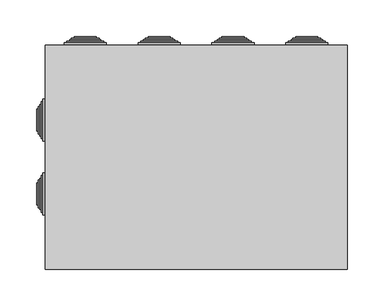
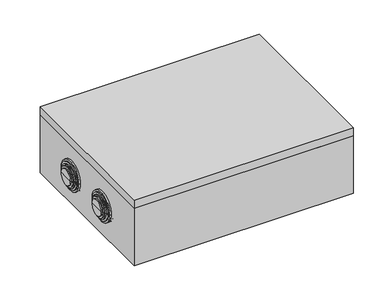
"""IFC4 building model written with IfcOpenShell, lengths in millimetres: cable carrier fitting geometry, КНС_КоробкаОтветвительнаяСКабельнымиВводами_12_IP55_DKC : с 12 кабельными вводами д.40мм, IP55, 380х300х120мм."""

from ifc_helpers import new_model, si_unit, frame, origin, place, context, project, spatial, polyline, circle_curve, faceted_brep, source, transform, mapped, element, save
from ifc_brep_helpers import plane_surface, cylinder_surface, revolved_surface, advanced_brep


def cable_carrier_fitting_1b3624fc(model_context):
    return source(origin(), model_context, "Body", "SolidModel", [
        advanced_brep(
        [(-202.5, -75.0, 57.0), (-202.5, -25.0, 57.0), (-202.5, -21.5, 57.0), (-202.5, -78.5, 57.0), (-204.5, -75.0, 57.0), (-204.5, -25.0, 57.0), (-204.5, -78.5, 57.0), (-204.5, -21.5, 57.0), (-207.5, -78.5, 57.0), (-207.5, -21.5, 57.0), (-207.5, -75.0, 57.0), (-207.5, -25.0, 57.0), (-209.5, -75.0, 57.0), (-209.5, -25.0, 57.0), (-209.5, -71.25, 57.0), (-209.5, -28.75, 57.0), (-211.5, -71.25, 57.0), (-211.5, -28.75, 57.0), (-211.5, -68.75, 57.0), (-211.5, -31.25, 57.0), (-213.5, -68.75, 57.0), (-213.5, -31.25, 57.0), (-213.5, -65.0, 57.0), (-213.5, -35.0, 57.0), (-215.5, -65.0, 57.0), (-215.5, -35.0, 57.0), (-215.5, -50.0, 57.0), (-195.5, -75.0, 57.0), (-195.5, -25.0, 57.0), (-195.5, -50.0, 57.0), (-200.2491137, -78.5, 57.0), (-200.2491137, -21.5, 57.0)],
        [
            (0, 1, circle_curve(frame((-202.5, -50.0, 57.0), z_axis=(1.0, 0.0, 0.0), x_axis=(0.0, 1.0, 0.0)), 25.0)),
            (1, 2),
            (2, 3, circle_curve(frame((-202.5, -50.0, 57.0), z_axis=(-1.0, 0.0, 0.0), x_axis=(0.0, 1.0, 0.0)), 28.5)),
            (3, 0),
            (1, 0, circle_curve(frame((-202.5, -50.0, 57.0), z_axis=(1.0, 0.0, 0.0), x_axis=(0.0, 1.0, 0.0)), 25.0)),
            (3, 2, circle_curve(frame((-202.5, -50.0, 57.0), z_axis=(-1.0, 0.0, 0.0), x_axis=(0.0, 1.0, 0.0)), 28.5)),
            (4, 5, circle_curve(frame((-204.5, -50.0, 57.0), z_axis=(1.0, 0.0, 0.0), x_axis=(0.0, 1.0, 0.0)), 25.0)),
            (5, 1),
            (0, 4),
            (5, 4, circle_curve(frame((-204.5, -50.0, 57.0), z_axis=(1.0, 0.0, 0.0), x_axis=(0.0, 1.0, 0.0)), 25.0)),
            (6, 7, circle_curve(frame((-204.5, -50.0, 57.0), z_axis=(1.0, 0.0, 0.0), x_axis=(0.0, 1.0, 0.0)), 28.5)),
            (7, 5),
            (4, 6),
            (7, 6, circle_curve(frame((-204.5, -50.0, 57.0), z_axis=(1.0, 0.0, 0.0), x_axis=(0.0, 1.0, 0.0)), 28.5)),
            (8, 9, circle_curve(frame((-207.5, -50.0, 57.0), z_axis=(1.0, 0.0, 0.0), x_axis=(0.0, 1.0, 0.0)), 28.5)),
            (9, 7),
            (6, 8),
            (9, 8, circle_curve(frame((-207.5, -50.0, 57.0), z_axis=(1.0, 0.0, 0.0), x_axis=(0.0, 1.0, 0.0)), 28.5)),
            (10, 11, circle_curve(frame((-207.5, -50.0, 57.0), z_axis=(1.0, 0.0, 0.0), x_axis=(0.0, 1.0, 0.0)), 25.0)),
            (11, 9),
            (8, 10),
            (11, 10, circle_curve(frame((-207.5, -50.0, 57.0), z_axis=(1.0, 0.0, 0.0), x_axis=(0.0, 1.0, 0.0)), 25.0)),
            (12, 13, circle_curve(frame((-209.5, -50.0, 57.0), z_axis=(1.0, 0.0, 0.0), x_axis=(0.0, 1.0, 0.0)), 25.0)),
            (13, 11),
            (10, 12),
            (13, 12, circle_curve(frame((-209.5, -50.0, 57.0), z_axis=(1.0, 0.0, 0.0), x_axis=(0.0, 1.0, 0.0)), 25.0)),
            (14, 15, circle_curve(frame((-209.5, -50.0, 57.0), z_axis=(1.0, 0.0, 0.0), x_axis=(0.0, 1.0, 0.0)), 21.25)),
            (15, 13),
            (12, 14),
            (15, 14, circle_curve(frame((-209.5, -50.0, 57.0), z_axis=(1.0, 0.0, 0.0), x_axis=(0.0, 1.0, 0.0)), 21.25)),
            (16, 17, circle_curve(frame((-211.5, -50.0, 57.0), z_axis=(1.0, 0.0, 0.0), x_axis=(0.0, 1.0, 0.0)), 21.25)),
            (17, 15),
            (14, 16),
            (17, 16, circle_curve(frame((-211.5, -50.0, 57.0), z_axis=(1.0, 0.0, 0.0), x_axis=(0.0, 1.0, 0.0)), 21.25)),
            (18, 19, circle_curve(frame((-211.5, -50.0, 57.0), z_axis=(1.0, 0.0, 0.0), x_axis=(0.0, 1.0, 0.0)), 18.75)),
            (19, 17),
            (16, 18),
            (19, 18, circle_curve(frame((-211.5, -50.0, 57.0), z_axis=(1.0, 0.0, 0.0), x_axis=(0.0, 1.0, 0.0)), 18.75)),
            (20, 21, circle_curve(frame((-213.5, -50.0, 57.0), z_axis=(1.0, 0.0, 0.0), x_axis=(0.0, 1.0, 0.0)), 18.75)),
            (21, 19),
            (18, 20),
            (21, 20, circle_curve(frame((-213.5, -50.0, 57.0), z_axis=(1.0, 0.0, 0.0), x_axis=(0.0, 1.0, 0.0)), 18.75)),
            (22, 23, circle_curve(frame((-213.5, -50.0, 57.0), z_axis=(1.0, 0.0, 0.0), x_axis=(0.0, 1.0, 0.0)), 15.0)),
            (23, 21),
            (20, 22),
            (23, 22, circle_curve(frame((-213.5, -50.0, 57.0), z_axis=(1.0, 0.0, 0.0), x_axis=(0.0, 1.0, 0.0)), 15.0)),
            (24, 25, circle_curve(frame((-215.5, -50.0, 57.0), z_axis=(1.0, 0.0, 0.0), x_axis=(0.0, 1.0, 0.0)), 15.0)),
            (25, 23),
            (22, 24),
            (25, 24, circle_curve(frame((-215.5, -50.0, 57.0), z_axis=(1.0, 0.0, 0.0), x_axis=(0.0, 1.0, 0.0)), 15.0)),
            (26, 25),
            (24, 26),
            (27, 28, circle_curve(frame((-195.5, -50.0, 57.0), z_axis=(1.0, 0.0, 0.0), x_axis=(0.0, 1.0, 0.0)), 25.0)),
            (28, 29),
            (29, 27),
            (28, 27, circle_curve(frame((-195.5, -50.0, 57.0), z_axis=(1.0, 0.0, 0.0), x_axis=(0.0, 1.0, 0.0)), 25.0)),
            (30, 31, circle_curve(frame((-200.2491137, -50.0, 57.0), z_axis=(1.0, 0.0, 0.0), x_axis=(0.0, 1.0, 0.0)), 28.5)),
            (31, 28),
            (27, 30),
            (31, 30, circle_curve(frame((-200.2491137, -50.0, 57.0), z_axis=(1.0, 0.0, 0.0), x_axis=(0.0, 1.0, 0.0)), 28.5)),
            (2, 31),
            (30, 3),
        ],
        [
            plane_surface(frame((-202.5, -50.0, 57.0), z_axis=(-1.0, 0.0, 0.0), x_axis=(0.0, 1.0, 0.0))),
            cylinder_surface(frame((1310.5, -50.0, 57.0), z_axis=(-1.0, 0.0, 0.0), x_axis=(0.0, 1.0, 0.0)), 25.0),
            plane_surface(frame((-204.5, -50.0, 57.0), z_axis=(1.0, 0.0, 0.0), x_axis=(0.0, 1.0, 0.0))),
            cylinder_surface(frame((1310.5, -50.0, 57.0), z_axis=(-1.0, 0.0, 0.0), x_axis=(0.0, 1.0, 0.0)), 28.5),
            plane_surface(frame((-207.5, -50.0, 57.0), z_axis=(-1.0, 0.0, 0.0), x_axis=(0.0, 1.0, 0.0))),
            plane_surface(frame((-209.5, -50.0, 57.0), z_axis=(-1.0, 0.0, 0.0), x_axis=(0.0, 1.0, 0.0))),
            cylinder_surface(frame((1310.5, -50.0, 57.0), z_axis=(-1.0, 0.0, 0.0), x_axis=(0.0, 1.0, 0.0)), 21.25),
            plane_surface(frame((-211.5, -50.0, 57.0), z_axis=(-1.0, 0.0, 0.0), x_axis=(0.0, 1.0, 0.0))),
            cylinder_surface(frame((1310.5, -50.0, 57.0), z_axis=(-1.0, 0.0, 0.0), x_axis=(0.0, 1.0, 0.0)), 18.75),
            plane_surface(frame((-213.5, -50.0, 57.0), z_axis=(-1.0, 0.0, 0.0), x_axis=(0.0, 1.0, 0.0))),
            cylinder_surface(frame((1310.5, -50.0, 57.0), z_axis=(-1.0, 0.0, 0.0), x_axis=(0.0, 1.0, 0.0)), 15.0),
            plane_surface(frame((-215.5, -50.0, 57.0), z_axis=(-1.0, 0.0, 0.0), x_axis=(0.0, 1.0, 0.0))),
            plane_surface(frame((-195.5, -50.0, 57.0), z_axis=(1.0, 0.0, 0.0), x_axis=(0.0, 1.0, 0.0))),
            revolved_surface(polyline([(-195.5, -25.0, 57.0), (-200.2491137, -21.5, 57.0)]), (1310.5, -50.0, 57.0), (-1.0, 0.0, 0.0)),
        ],
        [
            (0, [[1, 2, 3, 4]]),
            (0, [[5, -4, 6, -2]]),
            (1, [[7, 8, -1, 9]]),
            (1, [[10, -9, -5, -8]]),
            (2, [[11, 12, -7, 13]]),
            (2, [[14, -13, -10, -12]]),
            (3, [[15, 16, -11, 17]]),
            (3, [[18, -17, -14, -16]]),
            (4, [[19, 20, -15, 21]]),
            (4, [[22, -21, -18, -20]]),
            (1, [[23, 24, -19, 25]]),
            (1, [[26, -25, -22, -24]]),
            (5, [[27, 28, -23, 29]]),
            (5, [[30, -29, -26, -28]]),
            (6, [[31, 32, -27, 33]]),
            (6, [[34, -33, -30, -32]]),
            (7, [[35, 36, -31, 37]]),
            (7, [[38, -37, -34, -36]]),
            (8, [[39, 40, -35, 41]]),
            (8, [[42, -41, -38, -40]]),
            (9, [[43, 44, -39, 45]]),
            (9, [[46, -45, -42, -44]]),
            (10, [[47, 48, -43, 49]]),
            (10, [[50, -49, -46, -48]]),
            (11, [[51, -47, 52]]),
            (11, [[-52, -50, -51]]),
            (12, [[53, 54, 55]]),
            (12, [[56, -55, -54]]),
            (13, [[57, 58, -53, 59]]),
            (13, [[60, -59, -56, -58]]),
            (3, [[-3, 61, -57, 62]]),
            (3, [[-6, -62, -60, -61]]),
        ],
    ),
        advanced_brep(
        [(-202.5, 25.0, 57.0), (-202.5, 75.0, 57.0), (-202.5, 78.5, 57.0), (-202.5, 21.5, 57.0), (-204.5, 25.0, 57.0), (-204.5, 75.0, 57.0), (-204.5, 21.5, 57.0), (-204.5, 78.5, 57.0), (-207.5, 21.5, 57.0), (-207.5, 78.5, 57.0), (-207.5, 25.0, 57.0), (-207.5, 75.0, 57.0), (-209.5, 25.0, 57.0), (-209.5, 75.0, 57.0), (-209.5, 28.75, 57.0), (-209.5, 71.25, 57.0), (-211.5, 28.75, 57.0), (-211.5, 71.25, 57.0), (-211.5, 31.25, 57.0), (-211.5, 68.75, 57.0), (-213.5, 31.25, 57.0), (-213.5, 68.75, 57.0), (-213.5, 35.0, 57.0), (-213.5, 65.0, 57.0), (-215.5, 35.0, 57.0), (-215.5, 65.0, 57.0), (-215.5, 50.0, 57.0), (-195.5, 25.0, 57.0), (-195.5, 75.0, 57.0), (-195.5, 50.0, 57.0), (-200.2491137, 21.5, 57.0), (-200.2491137, 78.5, 57.0)],
        [
            (0, 1, circle_curve(frame((-202.5, 50.0, 57.0), z_axis=(1.0, 0.0, 0.0), x_axis=(0.0, 1.0000000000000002, 0.0)), 25.0)),
            (1, 2),
            (2, 3, circle_curve(frame((-202.5, 50.0, 57.0), z_axis=(-1.0, 0.0, 0.0), x_axis=(0.0, 1.0000000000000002, 0.0)), 28.5)),
            (3, 0),
            (1, 0, circle_curve(frame((-202.5, 50.0, 57.0), z_axis=(1.0, 0.0, 0.0), x_axis=(0.0, 1.0000000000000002, 0.0)), 25.0)),
            (3, 2, circle_curve(frame((-202.5, 50.0, 57.0), z_axis=(-1.0, 0.0, 0.0), x_axis=(0.0, 1.0000000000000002, 0.0)), 28.5)),
            (4, 5, circle_curve(frame((-204.5, 50.0, 57.0), z_axis=(1.0, 0.0, 0.0), x_axis=(0.0, 1.0000000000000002, 0.0)), 25.0)),
            (5, 1),
            (0, 4),
            (5, 4, circle_curve(frame((-204.5, 50.0, 57.0), z_axis=(1.0, 0.0, 0.0), x_axis=(0.0, 1.0000000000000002, 0.0)), 25.0)),
            (6, 7, circle_curve(frame((-204.5, 50.0, 57.0), z_axis=(1.0, 0.0, 0.0), x_axis=(0.0, 1.0000000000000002, 0.0)), 28.5)),
            (7, 5),
            (4, 6),
            (7, 6, circle_curve(frame((-204.5, 50.0, 57.0), z_axis=(1.0, 0.0, 0.0), x_axis=(0.0, 1.0000000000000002, 0.0)), 28.5)),
            (8, 9, circle_curve(frame((-207.5, 50.0, 57.0), z_axis=(1.0, 0.0, 0.0), x_axis=(0.0, 1.0000000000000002, 0.0)), 28.5)),
            (9, 7),
            (6, 8),
            (9, 8, circle_curve(frame((-207.5, 50.0, 57.0), z_axis=(1.0, 0.0, 0.0), x_axis=(0.0, 1.0000000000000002, 0.0)), 28.5)),
            (10, 11, circle_curve(frame((-207.5, 50.0, 57.0), z_axis=(1.0, 0.0, 0.0), x_axis=(0.0, 1.0000000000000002, 0.0)), 25.0)),
            (11, 9),
            (8, 10),
            (11, 10, circle_curve(frame((-207.5, 50.0, 57.0), z_axis=(1.0, 0.0, 0.0), x_axis=(0.0, 1.0000000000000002, 0.0)), 25.0)),
            (12, 13, circle_curve(frame((-209.5, 50.0, 57.0), z_axis=(1.0, 0.0, 0.0), x_axis=(0.0, 1.0000000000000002, 0.0)), 25.0)),
            (13, 11),
            (10, 12),
            (13, 12, circle_curve(frame((-209.5, 50.0, 57.0), z_axis=(1.0, 0.0, 0.0), x_axis=(0.0, 1.0000000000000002, 0.0)), 25.0)),
            (14, 15, circle_curve(frame((-209.5, 50.0, 57.0), z_axis=(1.0, 0.0, 0.0), x_axis=(0.0, 1.0000000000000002, 0.0)), 21.25)),
            (15, 13),
            (12, 14),
            (15, 14, circle_curve(frame((-209.5, 50.0, 57.0), z_axis=(1.0, 0.0, 0.0), x_axis=(0.0, 1.0000000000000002, 0.0)), 21.25)),
            (16, 17, circle_curve(frame((-211.5, 50.0, 57.0), z_axis=(1.0, 0.0, 0.0), x_axis=(0.0, 1.0000000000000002, 0.0)), 21.25)),
            (17, 15),
            (14, 16),
            (17, 16, circle_curve(frame((-211.5, 50.0, 57.0), z_axis=(1.0, 0.0, 0.0), x_axis=(0.0, 1.0000000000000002, 0.0)), 21.25)),
            (18, 19, circle_curve(frame((-211.5, 50.0, 57.0), z_axis=(1.0, 0.0, 0.0), x_axis=(0.0, 1.0000000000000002, 0.0)), 18.75)),
            (19, 17),
            (16, 18),
            (19, 18, circle_curve(frame((-211.5, 50.0, 57.0), z_axis=(1.0, 0.0, 0.0), x_axis=(0.0, 1.0000000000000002, 0.0)), 18.75)),
            (20, 21, circle_curve(frame((-213.5, 50.0, 57.0), z_axis=(1.0, 0.0, 0.0), x_axis=(0.0, 1.0000000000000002, 0.0)), 18.75)),
            (21, 19),
            (18, 20),
            (21, 20, circle_curve(frame((-213.5, 50.0, 57.0), z_axis=(1.0, 0.0, 0.0), x_axis=(0.0, 1.0000000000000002, 0.0)), 18.75)),
            (22, 23, circle_curve(frame((-213.5, 50.0, 57.0), z_axis=(1.0, 0.0, 0.0), x_axis=(0.0, 1.0000000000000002, 0.0)), 15.0)),
            (23, 21),
            (20, 22),
            (23, 22, circle_curve(frame((-213.5, 50.0, 57.0), z_axis=(1.0, 0.0, 0.0), x_axis=(0.0, 1.0000000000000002, 0.0)), 15.0)),
            (24, 25, circle_curve(frame((-215.5, 50.0, 57.0), z_axis=(1.0, 0.0, 0.0), x_axis=(0.0, 1.0000000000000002, 0.0)), 15.0)),
            (25, 23),
            (22, 24),
            (25, 24, circle_curve(frame((-215.5, 50.0, 57.0), z_axis=(1.0, 0.0, 0.0), x_axis=(0.0, 1.0000000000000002, 0.0)), 15.0)),
            (26, 25),
            (24, 26),
            (27, 28, circle_curve(frame((-195.5, 50.0, 57.0), z_axis=(1.0, 0.0, 0.0), x_axis=(0.0, 1.0000000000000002, 0.0)), 25.0)),
            (28, 29),
            (29, 27),
            (28, 27, circle_curve(frame((-195.5, 50.0, 57.0), z_axis=(1.0, 0.0, 0.0), x_axis=(0.0, 1.0000000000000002, 0.0)), 25.0)),
            (30, 31, circle_curve(frame((-200.2491137, 50.0, 57.0), z_axis=(1.0, 0.0, 0.0), x_axis=(0.0, 1.0000000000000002, 0.0)), 28.5)),
            (31, 28),
            (27, 30),
            (31, 30, circle_curve(frame((-200.2491137, 50.0, 57.0), z_axis=(1.0, 0.0, 0.0), x_axis=(0.0, 1.0000000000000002, 0.0)), 28.5)),
            (2, 31),
            (30, 3),
        ],
        [
            plane_surface(frame((-202.5, 50.0, 57.0), z_axis=(-1.0, 0.0, 0.0), x_axis=(0.0, 1.0, 0.0))),
            cylinder_surface(frame((1310.5, 50.0, 57.0), z_axis=(-1.0000000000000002, 0.0, 0.0), x_axis=(0.0, 1.0000000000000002, 0.0)), 25.0),
            plane_surface(frame((-204.5, 50.0, 57.0), z_axis=(1.0, 0.0, 0.0), x_axis=(0.0, 1.0, 0.0))),
            cylinder_surface(frame((1310.5, 50.0, 57.0), z_axis=(-1.0000000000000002, 0.0, 0.0), x_axis=(0.0, 1.0000000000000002, 0.0)), 28.5),
            plane_surface(frame((-207.5, 50.0, 57.0), z_axis=(-1.0, 0.0, 0.0), x_axis=(0.0, 1.0, 0.0))),
            plane_surface(frame((-209.5, 50.0, 57.0), z_axis=(-1.0, 0.0, 0.0), x_axis=(0.0, 1.0, 0.0))),
            cylinder_surface(frame((1310.5, 50.0, 57.0), z_axis=(-1.0000000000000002, 0.0, 0.0), x_axis=(0.0, 1.0000000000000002, 0.0)), 21.25),
            plane_surface(frame((-211.5, 50.0, 57.0), z_axis=(-1.0, 0.0, 0.0), x_axis=(0.0, 1.0, 0.0))),
            cylinder_surface(frame((1310.5, 50.0, 57.0), z_axis=(-1.0000000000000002, 0.0, 0.0), x_axis=(0.0, 1.0000000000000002, 0.0)), 18.75),
            plane_surface(frame((-213.5, 50.0, 57.0), z_axis=(-1.0, 0.0, 0.0), x_axis=(0.0, 1.0, 0.0))),
            cylinder_surface(frame((1310.5, 50.0, 57.0), z_axis=(-1.0000000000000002, 0.0, 0.0), x_axis=(0.0, 1.0000000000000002, 0.0)), 15.0),
            plane_surface(frame((-215.5, 50.0, 57.0), z_axis=(-1.0, 0.0, 0.0), x_axis=(0.0, 1.0, 0.0))),
            plane_surface(frame((-195.5, 50.0, 57.0), z_axis=(1.0, 0.0, 0.0), x_axis=(0.0, 1.0, 0.0))),
            revolved_surface(polyline([(-195.5, 75.0, 57.0), (-200.2491137, 78.5, 57.0)]), (1310.5, 50.0, 57.0), (-1.0000000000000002, 0.0, 0.0)),
        ],
        [
            (0, [[1, 2, 3, 4]]),
            (0, [[5, -4, 6, -2]]),
            (1, [[7, 8, -1, 9]]),
            (1, [[10, -9, -5, -8]]),
            (2, [[11, 12, -7, 13]]),
            (2, [[14, -13, -10, -12]]),
            (3, [[15, 16, -11, 17]]),
            (3, [[18, -17, -14, -16]]),
            (4, [[19, 20, -15, 21]]),
            (4, [[22, -21, -18, -20]]),
            (1, [[23, 24, -19, 25]]),
            (1, [[26, -25, -22, -24]]),
            (5, [[27, 28, -23, 29]]),
            (5, [[30, -29, -26, -28]]),
            (6, [[31, 32, -27, 33]]),
            (6, [[34, -33, -30, -32]]),
            (7, [[35, 36, -31, 37]]),
            (7, [[38, -37, -34, -36]]),
            (8, [[39, 40, -35, 41]]),
            (8, [[42, -41, -38, -40]]),
            (9, [[43, 44, -39, 45]]),
            (9, [[46, -45, -42, -44]]),
            (10, [[47, 48, -43, 49]]),
            (10, [[50, -49, -46, -48]]),
            (11, [[51, -47, 52]]),
            (11, [[-52, -50, -51]]),
            (12, [[53, 54, 55]]),
            (12, [[56, -55, -54]]),
            (13, [[57, 58, -53, 59]]),
            (13, [[60, -59, -56, -58]]),
            (3, [[-3, 61, -57, 62]]),
            (3, [[-6, -62, -60, -61]]),
        ],
    ),
        advanced_brep(
        [(125.0, 150.0, 57.0), (175.0, 150.0, 57.0), (178.5, 150.0, 57.0), (121.5, 150.0, 57.0), (125.0, 152.0, 57.0), (175.0, 152.0, 57.0), (121.5, 152.0, 57.0), (178.5, 152.0, 57.0), (121.5, 155.0, 57.0), (178.5, 155.0, 57.0), (125.0, 155.0, 57.0), (175.0, 155.0, 57.0), (125.0, 157.0, 57.0), (175.0, 157.0, 57.0), (128.75, 157.0, 57.0), (171.25, 157.0, 57.0), (128.75, 159.0, 57.0), (171.25, 159.0, 57.0), (131.25, 159.0, 57.0), (168.75, 159.0, 57.0), (131.25, 161.0, 57.0), (168.75, 161.0, 57.0), (135.0, 161.0, 57.0), (165.0, 161.0, 57.0), (135.0, 163.0, 57.0), (165.0, 163.0, 57.0), (150.0, 163.0, 57.0), (125.0, 143.0, 57.0), (175.0, 143.0, 57.0), (150.0, 143.0, 57.0), (121.5, 147.7491137, 57.0), (178.5, 147.7491137, 57.0)],
        [
            (0, 1, circle_curve(frame((150.0, 150.0, 57.0), z_axis=(0.0, -1.0, 0.0), x_axis=(1.0, 0.0, 0.0)), 25.0)),
            (1, 2),
            (2, 3, circle_curve(frame((150.0, 150.0, 57.0), z_axis=(0.0, 1.0, 0.0), x_axis=(1.0, 0.0, 0.0)), 28.5)),
            (3, 0),
            (1, 0, circle_curve(frame((150.0, 150.0, 57.0), z_axis=(0.0, -1.0, 0.0), x_axis=(1.0, 0.0, 0.0)), 25.0)),
            (3, 2, circle_curve(frame((150.0, 150.0, 57.0), z_axis=(0.0, 1.0, 0.0), x_axis=(1.0, 0.0, 0.0)), 28.5)),
            (4, 5, circle_curve(frame((150.0, 152.0, 57.0), z_axis=(0.0, -1.0, 0.0), x_axis=(1.0, 0.0, 0.0)), 25.0)),
            (5, 1),
            (0, 4),
            (5, 4, circle_curve(frame((150.0, 152.0, 57.0), z_axis=(0.0, -1.0, 0.0), x_axis=(1.0, 0.0, 0.0)), 25.0)),
            (6, 7, circle_curve(frame((150.0, 152.0, 57.0), z_axis=(0.0, -1.0, 0.0), x_axis=(1.0, 0.0, 0.0)), 28.5)),
            (7, 5),
            (4, 6),
            (7, 6, circle_curve(frame((150.0, 152.0, 57.0), z_axis=(0.0, -1.0, 0.0), x_axis=(1.0, 0.0, 0.0)), 28.5)),
            (8, 9, circle_curve(frame((150.0, 155.0, 57.0), z_axis=(0.0, -1.0, 0.0), x_axis=(1.0, 0.0, 0.0)), 28.5)),
            (9, 7),
            (6, 8),
            (9, 8, circle_curve(frame((150.0, 155.0, 57.0), z_axis=(0.0, -1.0, 0.0), x_axis=(1.0, 0.0, 0.0)), 28.5)),
            (10, 11, circle_curve(frame((150.0, 155.0, 57.0), z_axis=(0.0, -1.0, 0.0), x_axis=(1.0, 0.0, 0.0)), 25.0)),
            (11, 9),
            (8, 10),
            (11, 10, circle_curve(frame((150.0, 155.0, 57.0), z_axis=(0.0, -1.0, 0.0), x_axis=(1.0, 0.0, 0.0)), 25.0)),
            (12, 13, circle_curve(frame((150.0, 157.0, 57.0), z_axis=(0.0, -1.0, 0.0), x_axis=(1.0, 0.0, 0.0)), 25.0)),
            (13, 11),
            (10, 12),
            (13, 12, circle_curve(frame((150.0, 157.0, 57.0), z_axis=(0.0, -1.0, 0.0), x_axis=(1.0, 0.0, 0.0)), 25.0)),
            (14, 15, circle_curve(frame((150.0, 157.0, 57.0), z_axis=(0.0, -1.0, 0.0), x_axis=(1.0, 0.0, 0.0)), 21.25)),
            (15, 13),
            (12, 14),
            (15, 14, circle_curve(frame((150.0, 157.0, 57.0), z_axis=(0.0, -1.0, 0.0), x_axis=(1.0, 0.0, 0.0)), 21.25)),
            (16, 17, circle_curve(frame((150.0, 159.0, 57.0), z_axis=(0.0, -1.0, 0.0), x_axis=(1.0, 0.0, 0.0)), 21.25)),
            (17, 15),
            (14, 16),
            (17, 16, circle_curve(frame((150.0, 159.0, 57.0), z_axis=(0.0, -1.0, 0.0), x_axis=(1.0, 0.0, 0.0)), 21.25)),
            (18, 19, circle_curve(frame((150.0, 159.0, 57.0), z_axis=(0.0, -1.0, 0.0), x_axis=(1.0, 0.0, 0.0)), 18.75)),
            (19, 17),
            (16, 18),
            (19, 18, circle_curve(frame((150.0, 159.0, 57.0), z_axis=(0.0, -1.0, 0.0), x_axis=(1.0, 0.0, 0.0)), 18.75)),
            (20, 21, circle_curve(frame((150.0, 161.0, 57.0), z_axis=(0.0, -1.0, 0.0), x_axis=(1.0, 0.0, 0.0)), 18.75)),
            (21, 19),
            (18, 20),
            (21, 20, circle_curve(frame((150.0, 161.0, 57.0), z_axis=(0.0, -1.0, 0.0), x_axis=(1.0, 0.0, 0.0)), 18.75)),
            (22, 23, circle_curve(frame((150.0, 161.0, 57.0), z_axis=(0.0, -1.0, 0.0), x_axis=(1.0, 0.0, 0.0)), 15.0)),
            (23, 21),
            (20, 22),
            (23, 22, circle_curve(frame((150.0, 161.0, 57.0), z_axis=(0.0, -1.0, 0.0), x_axis=(1.0, 0.0, 0.0)), 15.0)),
            (24, 25, circle_curve(frame((150.0, 163.0, 57.0), z_axis=(0.0, -1.0, 0.0), x_axis=(1.0, 0.0, 0.0)), 15.0)),
            (25, 23),
            (22, 24),
            (25, 24, circle_curve(frame((150.0, 163.0, 57.0), z_axis=(0.0, -1.0, 0.0), x_axis=(1.0, 0.0, 0.0)), 15.0)),
            (26, 25),
            (24, 26),
            (27, 28, circle_curve(frame((150.0, 143.0, 57.0), z_axis=(0.0, -1.0, 0.0), x_axis=(1.0, 0.0, 0.0)), 25.0)),
            (28, 29),
            (29, 27),
            (28, 27, circle_curve(frame((150.0, 143.0, 57.0), z_axis=(0.0, -1.0, 0.0), x_axis=(1.0, 0.0, 0.0)), 25.0)),
            (30, 31, circle_curve(frame((150.0, 147.7491137, 57.0), z_axis=(0.0, -1.0, 0.0), x_axis=(1.0, 0.0, 0.0)), 28.5)),
            (31, 28),
            (27, 30),
            (31, 30, circle_curve(frame((150.0, 147.7491137, 57.0), z_axis=(0.0, -1.0, 0.0), x_axis=(1.0, 0.0, 0.0)), 28.5)),
            (2, 31),
            (30, 3),
        ],
        [
            plane_surface(frame((150.0, 150.0, 57.0), z_axis=(0.0, 1.0, 0.0), x_axis=(1.0, 0.0, 0.0))),
            cylinder_surface(frame((150.0, -1363.0, 57.0), z_axis=(0.0, 1.0, 0.0), x_axis=(1.0, 0.0, 0.0)), 25.0),
            plane_surface(frame((150.0, 152.0, 57.0), z_axis=(0.0, -1.0, 0.0), x_axis=(1.0, 0.0, 0.0))),
            cylinder_surface(frame((150.0, -1363.0, 57.0), z_axis=(0.0, 1.0, 0.0), x_axis=(1.0, 0.0, 0.0)), 28.5),
            plane_surface(frame((150.0, 155.0, 57.0), z_axis=(0.0, 1.0, 0.0), x_axis=(1.0, 0.0, 0.0))),
            plane_surface(frame((150.0, 157.0, 57.0), z_axis=(0.0, 1.0, 0.0), x_axis=(1.0, 0.0, 0.0))),
            cylinder_surface(frame((150.0, -1363.0, 57.0), z_axis=(0.0, 1.0, 0.0), x_axis=(1.0, 0.0, 0.0)), 21.25),
            plane_surface(frame((150.0, 159.0, 57.0), z_axis=(0.0, 1.0, 0.0), x_axis=(1.0, 0.0, 0.0))),
            cylinder_surface(frame((150.0, -1363.0, 57.0), z_axis=(0.0, 1.0, 0.0), x_axis=(1.0, 0.0, 0.0)), 18.75),
            plane_surface(frame((150.0, 161.0, 57.0), z_axis=(0.0, 1.0, 0.0), x_axis=(1.0, 0.0, 0.0))),
            cylinder_surface(frame((150.0, -1363.0, 57.0), z_axis=(0.0, 1.0, 0.0), x_axis=(1.0, 0.0, 0.0)), 15.0),
            plane_surface(frame((150.0, 163.0, 57.0), z_axis=(0.0, 1.0, 0.0), x_axis=(1.0, 0.0, 0.0))),
            plane_surface(frame((150.0, 143.0, 57.0), z_axis=(0.0, -1.0, 0.0), x_axis=(1.0, 0.0, 0.0))),
            revolved_surface(polyline([(175.0, 143.0, 57.0), (178.5, 147.7491137, 57.0)]), (150.0, -1363.0, 57.0), (0.0, 1.0, 0.0)),
        ],
        [
            (0, [[1, 2, 3, 4]]),
            (0, [[5, -4, 6, -2]]),
            (1, [[7, 8, -1, 9]]),
            (1, [[10, -9, -5, -8]]),
            (2, [[11, 12, -7, 13]]),
            (2, [[14, -13, -10, -12]]),
            (3, [[15, 16, -11, 17]]),
            (3, [[18, -17, -14, -16]]),
            (4, [[19, 20, -15, 21]]),
            (4, [[22, -21, -18, -20]]),
            (1, [[23, 24, -19, 25]]),
            (1, [[26, -25, -22, -24]]),
            (5, [[27, 28, -23, 29]]),
            (5, [[30, -29, -26, -28]]),
            (6, [[31, 32, -27, 33]]),
            (6, [[34, -33, -30, -32]]),
            (7, [[35, 36, -31, 37]]),
            (7, [[38, -37, -34, -36]]),
            (8, [[39, 40, -35, 41]]),
            (8, [[42, -41, -38, -40]]),
            (9, [[43, 44, -39, 45]]),
            (9, [[46, -45, -42, -44]]),
            (10, [[47, 48, -43, 49]]),
            (10, [[50, -49, -46, -48]]),
            (11, [[51, -47, 52]]),
            (11, [[-52, -50, -51]]),
            (12, [[53, 54, 55]]),
            (12, [[56, -55, -54]]),
            (13, [[57, 58, -53, 59]]),
            (13, [[60, -59, -56, -58]]),
            (3, [[-3, 61, -57, 62]]),
            (3, [[-6, -62, -60, -61]]),
        ],
    ),
        advanced_brep(
        [(25.0, 150.0, 57.0), (75.0, 150.0, 57.0), (78.5, 150.0, 57.0), (21.5, 150.0, 57.0), (25.0, 152.0, 57.0), (75.0, 152.0, 57.0), (21.5, 152.0, 57.0), (78.5, 152.0, 57.0), (21.5, 155.0, 57.0), (78.5, 155.0, 57.0), (25.0, 155.0, 57.0), (75.0, 155.0, 57.0), (25.0, 157.0, 57.0), (75.0, 157.0, 57.0), (28.75, 157.0, 57.0), (71.25, 157.0, 57.0), (28.75, 159.0, 57.0), (71.25, 159.0, 57.0), (31.25, 159.0, 57.0), (68.75, 159.0, 57.0), (31.25, 161.0, 57.0), (68.75, 161.0, 57.0), (35.0, 161.0, 57.0), (65.0, 161.0, 57.0), (35.0, 163.0, 57.0), (65.0, 163.0, 57.0), (50.0, 163.0, 57.0), (25.0, 143.0, 57.0), (75.0, 143.0, 57.0), (50.0, 143.0, 57.0), (21.5, 147.7491137, 57.0), (78.5, 147.7491137, 57.0)],
        [
            (0, 1, circle_curve(frame((50.0, 150.0, 57.0), z_axis=(0.0, -1.0, 0.0), x_axis=(1.0, 0.0, 0.0)), 25.0)),
            (1, 2),
            (2, 3, circle_curve(frame((50.0, 150.0, 57.0), z_axis=(0.0, 1.0, 0.0), x_axis=(1.0, 0.0, 0.0)), 28.5)),
            (3, 0),
            (1, 0, circle_curve(frame((50.0, 150.0, 57.0), z_axis=(0.0, -1.0, 0.0), x_axis=(1.0, 0.0, 0.0)), 25.0)),
            (3, 2, circle_curve(frame((50.0, 150.0, 57.0), z_axis=(0.0, 1.0, 0.0), x_axis=(1.0, 0.0, 0.0)), 28.5)),
            (4, 5, circle_curve(frame((50.0, 152.0, 57.0), z_axis=(0.0, -1.0, 0.0), x_axis=(1.0, 0.0, 0.0)), 25.0)),
            (5, 1),
            (0, 4),
            (5, 4, circle_curve(frame((50.0, 152.0, 57.0), z_axis=(0.0, -1.0, 0.0), x_axis=(1.0, 0.0, 0.0)), 25.0)),
            (6, 7, circle_curve(frame((50.0, 152.0, 57.0), z_axis=(0.0, -1.0, 0.0), x_axis=(1.0, 0.0, 0.0)), 28.5)),
            (7, 5),
            (4, 6),
            (7, 6, circle_curve(frame((50.0, 152.0, 57.0), z_axis=(0.0, -1.0, 0.0), x_axis=(1.0, 0.0, 0.0)), 28.5)),
            (8, 9, circle_curve(frame((50.0, 155.0, 57.0), z_axis=(0.0, -1.0, 0.0), x_axis=(1.0, 0.0, 0.0)), 28.5)),
            (9, 7),
            (6, 8),
            (9, 8, circle_curve(frame((50.0, 155.0, 57.0), z_axis=(0.0, -1.0, 0.0), x_axis=(1.0, 0.0, 0.0)), 28.5)),
            (10, 11, circle_curve(frame((50.0, 155.0, 57.0), z_axis=(0.0, -1.0, 0.0), x_axis=(1.0, 0.0, 0.0)), 25.0)),
            (11, 9),
            (8, 10),
            (11, 10, circle_curve(frame((50.0, 155.0, 57.0), z_axis=(0.0, -1.0, 0.0), x_axis=(1.0, 0.0, 0.0)), 25.0)),
            (12, 13, circle_curve(frame((50.0, 157.0, 57.0), z_axis=(0.0, -1.0, 0.0), x_axis=(1.0, 0.0, 0.0)), 25.0)),
            (13, 11),
            (10, 12),
            (13, 12, circle_curve(frame((50.0, 157.0, 57.0), z_axis=(0.0, -1.0, 0.0), x_axis=(1.0, 0.0, 0.0)), 25.0)),
            (14, 15, circle_curve(frame((50.0, 157.0, 57.0), z_axis=(0.0, -1.0, 0.0), x_axis=(1.0, 0.0, 0.0)), 21.25)),
            (15, 13),
            (12, 14),
            (15, 14, circle_curve(frame((50.0, 157.0, 57.0), z_axis=(0.0, -1.0, 0.0), x_axis=(1.0, 0.0, 0.0)), 21.25)),
            (16, 17, circle_curve(frame((50.0, 159.0, 57.0), z_axis=(0.0, -1.0, 0.0), x_axis=(1.0, 0.0, 0.0)), 21.25)),
            (17, 15),
            (14, 16),
            (17, 16, circle_curve(frame((50.0, 159.0, 57.0), z_axis=(0.0, -1.0, 0.0), x_axis=(1.0, 0.0, 0.0)), 21.25)),
            (18, 19, circle_curve(frame((50.0, 159.0, 57.0), z_axis=(0.0, -1.0, 0.0), x_axis=(1.0, 0.0, 0.0)), 18.75)),
            (19, 17),
            (16, 18),
            (19, 18, circle_curve(frame((50.0, 159.0, 57.0), z_axis=(0.0, -1.0, 0.0), x_axis=(1.0, 0.0, 0.0)), 18.75)),
            (20, 21, circle_curve(frame((50.0, 161.0, 57.0), z_axis=(0.0, -1.0, 0.0), x_axis=(1.0, 0.0, 0.0)), 18.75)),
            (21, 19),
            (18, 20),
            (21, 20, circle_curve(frame((50.0, 161.0, 57.0), z_axis=(0.0, -1.0, 0.0), x_axis=(1.0, 0.0, 0.0)), 18.75)),
            (22, 23, circle_curve(frame((50.0, 161.0, 57.0), z_axis=(0.0, -1.0, 0.0), x_axis=(1.0, 0.0, 0.0)), 15.0)),
            (23, 21),
            (20, 22),
            (23, 22, circle_curve(frame((50.0, 161.0, 57.0), z_axis=(0.0, -1.0, 0.0), x_axis=(1.0, 0.0, 0.0)), 15.0)),
            (24, 25, circle_curve(frame((50.0, 163.0, 57.0), z_axis=(0.0, -1.0, 0.0), x_axis=(1.0, 0.0, 0.0)), 15.0)),
            (25, 23),
            (22, 24),
            (25, 24, circle_curve(frame((50.0, 163.0, 57.0), z_axis=(0.0, -1.0, 0.0), x_axis=(1.0, 0.0, 0.0)), 15.0)),
            (26, 25),
            (24, 26),
            (27, 28, circle_curve(frame((50.0, 143.0, 57.0), z_axis=(0.0, -1.0, 0.0), x_axis=(1.0, 0.0, 0.0)), 25.0)),
            (28, 29),
            (29, 27),
            (28, 27, circle_curve(frame((50.0, 143.0, 57.0), z_axis=(0.0, -1.0, 0.0), x_axis=(1.0, 0.0, 0.0)), 25.0)),
            (30, 31, circle_curve(frame((50.0, 147.7491137, 57.0), z_axis=(0.0, -1.0, 0.0), x_axis=(1.0, 0.0, 0.0)), 28.5)),
            (31, 28),
            (27, 30),
            (31, 30, circle_curve(frame((50.0, 147.7491137, 57.0), z_axis=(0.0, -1.0, 0.0), x_axis=(1.0, 0.0, 0.0)), 28.5)),
            (2, 31),
            (30, 3),
        ],
        [
            plane_surface(frame((50.0, 150.0, 57.0), z_axis=(0.0, 1.0, 0.0), x_axis=(1.0, 0.0, 0.0))),
            cylinder_surface(frame((50.0, -1363.0, 57.0), z_axis=(0.0, 1.0, 0.0), x_axis=(1.0, 0.0, 0.0)), 25.0),
            plane_surface(frame((50.0, 152.0, 57.0), z_axis=(0.0, -1.0, 0.0), x_axis=(1.0, 0.0, 0.0))),
            cylinder_surface(frame((50.0, -1363.0, 57.0), z_axis=(0.0, 1.0, 0.0), x_axis=(1.0, 0.0, 0.0)), 28.5),
            plane_surface(frame((50.0, 155.0, 57.0), z_axis=(0.0, 1.0, 0.0), x_axis=(1.0, 0.0, 0.0))),
            plane_surface(frame((50.0, 157.0, 57.0), z_axis=(0.0, 1.0, 0.0), x_axis=(1.0, 0.0, 0.0))),
            cylinder_surface(frame((50.0, -1363.0, 57.0), z_axis=(0.0, 1.0, 0.0), x_axis=(1.0, 0.0, 0.0)), 21.25),
            plane_surface(frame((50.0, 159.0, 57.0), z_axis=(0.0, 1.0, 0.0), x_axis=(1.0, 0.0, 0.0))),
            cylinder_surface(frame((50.0, -1363.0, 57.0), z_axis=(0.0, 1.0, 0.0), x_axis=(1.0, 0.0, 0.0)), 18.75),
            plane_surface(frame((50.0, 161.0, 57.0), z_axis=(0.0, 1.0, 0.0), x_axis=(1.0, 0.0, 0.0))),
            cylinder_surface(frame((50.0, -1363.0, 57.0), z_axis=(0.0, 1.0, 0.0), x_axis=(1.0, 0.0, 0.0)), 15.0),
            plane_surface(frame((50.0, 163.0, 57.0), z_axis=(0.0, 1.0, 0.0), x_axis=(1.0, 0.0, 0.0))),
            plane_surface(frame((50.0, 143.0, 57.0), z_axis=(0.0, -1.0, 0.0), x_axis=(1.0, 0.0, 0.0))),
            revolved_surface(polyline([(75.0, 143.0, 57.0), (78.5, 147.7491137, 57.0)]), (50.0, -1363.0, 57.0), (0.0, 1.0, 0.0)),
        ],
        [
            (0, [[1, 2, 3, 4]]),
            (0, [[5, -4, 6, -2]]),
            (1, [[7, 8, -1, 9]]),
            (1, [[10, -9, -5, -8]]),
            (2, [[11, 12, -7, 13]]),
            (2, [[14, -13, -10, -12]]),
            (3, [[15, 16, -11, 17]]),
            (3, [[18, -17, -14, -16]]),
            (4, [[19, 20, -15, 21]]),
            (4, [[22, -21, -18, -20]]),
            (1, [[23, 24, -19, 25]]),
            (1, [[26, -25, -22, -24]]),
            (5, [[27, 28, -23, 29]]),
            (5, [[30, -29, -26, -28]]),
            (6, [[31, 32, -27, 33]]),
            (6, [[34, -33, -30, -32]]),
            (7, [[35, 36, -31, 37]]),
            (7, [[38, -37, -34, -36]]),
            (8, [[39, 40, -35, 41]]),
            (8, [[42, -41, -38, -40]]),
            (9, [[43, 44, -39, 45]]),
            (9, [[46, -45, -42, -44]]),
            (10, [[47, 48, -43, 49]]),
            (10, [[50, -49, -46, -48]]),
            (11, [[51, -47, 52]]),
            (11, [[-52, -50, -51]]),
            (12, [[53, 54, 55]]),
            (12, [[56, -55, -54]]),
            (13, [[57, 58, -53, 59]]),
            (13, [[60, -59, -56, -58]]),
            (3, [[-3, 61, -57, 62]]),
            (3, [[-6, -62, -60, -61]]),
        ],
    ),
        advanced_brep(
        [(-75.0, 150.0, 57.0), (-25.0, 150.0, 57.0), (-21.5, 150.0, 57.0), (-78.5, 150.0, 57.0), (-75.0, 152.0, 57.0), (-25.0, 152.0, 57.0), (-78.5, 152.0, 57.0), (-21.5, 152.0, 57.0), (-78.5, 155.0, 57.0), (-21.5, 155.0, 57.0), (-75.0, 155.0, 57.0), (-25.0, 155.0, 57.0), (-75.0, 157.0, 57.0), (-25.0, 157.0, 57.0), (-71.25, 157.0, 57.0), (-28.75, 157.0, 57.0), (-71.25, 159.0, 57.0), (-28.75, 159.0, 57.0), (-68.75, 159.0, 57.0), (-31.25, 159.0, 57.0), (-68.75, 161.0, 57.0), (-31.25, 161.0, 57.0), (-65.0, 161.0, 57.0), (-35.0, 161.0, 57.0), (-65.0, 163.0, 57.0), (-35.0, 163.0, 57.0), (-50.0, 163.0, 57.0), (-75.0, 143.0, 57.0), (-25.0, 143.0, 57.0), (-50.0, 143.0, 57.0), (-78.5, 147.7491137, 57.0), (-21.5, 147.7491137, 57.0)],
        [
            (0, 1, circle_curve(frame((-50.0, 150.0, 57.0), z_axis=(0.0, -1.0, 0.0), x_axis=(1.0, 0.0, 0.0)), 25.0)),
            (1, 2),
            (2, 3, circle_curve(frame((-50.0, 150.0, 57.0), z_axis=(0.0, 1.0, 0.0), x_axis=(1.0, 0.0, 0.0)), 28.5)),
            (3, 0),
            (1, 0, circle_curve(frame((-50.0, 150.0, 57.0), z_axis=(0.0, -1.0, 0.0), x_axis=(1.0, 0.0, 0.0)), 25.0)),
            (3, 2, circle_curve(frame((-50.0, 150.0, 57.0), z_axis=(0.0, 1.0, 0.0), x_axis=(1.0, 0.0, 0.0)), 28.5)),
            (4, 5, circle_curve(frame((-50.0, 152.0, 57.0), z_axis=(0.0, -1.0, 0.0), x_axis=(1.0, 0.0, 0.0)), 25.0)),
            (5, 1),
            (0, 4),
            (5, 4, circle_curve(frame((-50.0, 152.0, 57.0), z_axis=(0.0, -1.0, 0.0), x_axis=(1.0, 0.0, 0.0)), 25.0)),
            (6, 7, circle_curve(frame((-50.0, 152.0, 57.0), z_axis=(0.0, -1.0, 0.0), x_axis=(1.0, 0.0, 0.0)), 28.5)),
            (7, 5),
            (4, 6),
            (7, 6, circle_curve(frame((-50.0, 152.0, 57.0), z_axis=(0.0, -1.0, 0.0), x_axis=(1.0, 0.0, 0.0)), 28.5)),
            (8, 9, circle_curve(frame((-50.0, 155.0, 57.0), z_axis=(0.0, -1.0, 0.0), x_axis=(1.0, 0.0, 0.0)), 28.5)),
            (9, 7),
            (6, 8),
            (9, 8, circle_curve(frame((-50.0, 155.0, 57.0), z_axis=(0.0, -1.0, 0.0), x_axis=(1.0, 0.0, 0.0)), 28.5)),
            (10, 11, circle_curve(frame((-50.0, 155.0, 57.0), z_axis=(0.0, -1.0, 0.0), x_axis=(1.0, 0.0, 0.0)), 25.0)),
            (11, 9),
            (8, 10),
            (11, 10, circle_curve(frame((-50.0, 155.0, 57.0), z_axis=(0.0, -1.0, 0.0), x_axis=(1.0, 0.0, 0.0)), 25.0)),
            (12, 13, circle_curve(frame((-50.0, 157.0, 57.0), z_axis=(0.0, -1.0, 0.0), x_axis=(1.0, 0.0, 0.0)), 25.0)),
            (13, 11),
            (10, 12),
            (13, 12, circle_curve(frame((-50.0, 157.0, 57.0), z_axis=(0.0, -1.0, 0.0), x_axis=(1.0, 0.0, 0.0)), 25.0)),
            (14, 15, circle_curve(frame((-50.0, 157.0, 57.0), z_axis=(0.0, -1.0, 0.0), x_axis=(1.0, 0.0, 0.0)), 21.25)),
            (15, 13),
            (12, 14),
            (15, 14, circle_curve(frame((-50.0, 157.0, 57.0), z_axis=(0.0, -1.0, 0.0), x_axis=(1.0, 0.0, 0.0)), 21.25)),
            (16, 17, circle_curve(frame((-50.0, 159.0, 57.0), z_axis=(0.0, -1.0, 0.0), x_axis=(1.0, 0.0, 0.0)), 21.25)),
            (17, 15),
            (14, 16),
            (17, 16, circle_curve(frame((-50.0, 159.0, 57.0), z_axis=(0.0, -1.0, 0.0), x_axis=(1.0, 0.0, 0.0)), 21.25)),
            (18, 19, circle_curve(frame((-50.0, 159.0, 57.0), z_axis=(0.0, -1.0, 0.0), x_axis=(1.0, 0.0, 0.0)), 18.75)),
            (19, 17),
            (16, 18),
            (19, 18, circle_curve(frame((-50.0, 159.0, 57.0), z_axis=(0.0, -1.0, 0.0), x_axis=(1.0, 0.0, 0.0)), 18.75)),
            (20, 21, circle_curve(frame((-50.0, 161.0, 57.0), z_axis=(0.0, -1.0, 0.0), x_axis=(1.0, 0.0, 0.0)), 18.75)),
            (21, 19),
            (18, 20),
            (21, 20, circle_curve(frame((-50.0, 161.0, 57.0), z_axis=(0.0, -1.0, 0.0), x_axis=(1.0, 0.0, 0.0)), 18.75)),
            (22, 23, circle_curve(frame((-50.0, 161.0, 57.0), z_axis=(0.0, -1.0, 0.0), x_axis=(1.0, 0.0, 0.0)), 15.0)),
            (23, 21),
            (20, 22),
            (23, 22, circle_curve(frame((-50.0, 161.0, 57.0), z_axis=(0.0, -1.0, 0.0), x_axis=(1.0, 0.0, 0.0)), 15.0)),
            (24, 25, circle_curve(frame((-50.0, 163.0, 57.0), z_axis=(0.0, -1.0, 0.0), x_axis=(1.0, 0.0, 0.0)), 15.0)),
            (25, 23),
            (22, 24),
            (25, 24, circle_curve(frame((-50.0, 163.0, 57.0), z_axis=(0.0, -1.0, 0.0), x_axis=(1.0, 0.0, 0.0)), 15.0)),
            (26, 25),
            (24, 26),
            (27, 28, circle_curve(frame((-50.0, 143.0, 57.0), z_axis=(0.0, -1.0, 0.0), x_axis=(1.0, 0.0, 0.0)), 25.0)),
            (28, 29),
            (29, 27),
            (28, 27, circle_curve(frame((-50.0, 143.0, 57.0), z_axis=(0.0, -1.0, 0.0), x_axis=(1.0, 0.0, 0.0)), 25.0)),
            (30, 31, circle_curve(frame((-50.0, 147.7491137, 57.0), z_axis=(0.0, -1.0, 0.0), x_axis=(1.0, 0.0, 0.0)), 28.5)),
            (31, 28),
            (27, 30),
            (31, 30, circle_curve(frame((-50.0, 147.7491137, 57.0), z_axis=(0.0, -1.0, 0.0), x_axis=(1.0, 0.0, 0.0)), 28.5)),
            (2, 31),
            (30, 3),
        ],
        [
            plane_surface(frame((-50.0, 150.0, 57.0), z_axis=(0.0, 1.0, 0.0), x_axis=(1.0, 0.0, 0.0))),
            cylinder_surface(frame((-50.0, -1363.0, 57.0), z_axis=(0.0, 1.0, 0.0), x_axis=(1.0, 0.0, 0.0)), 25.0),
            plane_surface(frame((-50.0, 152.0, 57.0), z_axis=(0.0, -1.0, 0.0), x_axis=(1.0, 0.0, 0.0))),
            cylinder_surface(frame((-50.0, -1363.0, 57.0), z_axis=(0.0, 1.0, 0.0), x_axis=(1.0, 0.0, 0.0)), 28.5),
            plane_surface(frame((-50.0, 155.0, 57.0), z_axis=(0.0, 1.0, 0.0), x_axis=(1.0, 0.0, 0.0))),
            plane_surface(frame((-50.0, 157.0, 57.0), z_axis=(0.0, 1.0, 0.0), x_axis=(1.0, 0.0, 0.0))),
            cylinder_surface(frame((-50.0, -1363.0, 57.0), z_axis=(0.0, 1.0, 0.0), x_axis=(1.0, 0.0, 0.0)), 21.25),
            plane_surface(frame((-50.0, 159.0, 57.0), z_axis=(0.0, 1.0, 0.0), x_axis=(1.0, 0.0, 0.0))),
            cylinder_surface(frame((-50.0, -1363.0, 57.0), z_axis=(0.0, 1.0, 0.0), x_axis=(1.0, 0.0, 0.0)), 18.75),
            plane_surface(frame((-50.0, 161.0, 57.0), z_axis=(0.0, 1.0, 0.0), x_axis=(1.0, 0.0, 0.0))),
            cylinder_surface(frame((-50.0, -1363.0, 57.0), z_axis=(0.0, 1.0, 0.0), x_axis=(1.0, 0.0, 0.0)), 15.0),
            plane_surface(frame((-50.0, 163.0, 57.0), z_axis=(0.0, 1.0, 0.0), x_axis=(1.0, 0.0, 0.0))),
            plane_surface(frame((-50.0, 143.0, 57.0), z_axis=(0.0, -1.0, 0.0), x_axis=(1.0, 0.0, 0.0))),
            revolved_surface(polyline([(-25.0, 143.0, 57.0), (-21.5, 147.7491137, 57.0)]), (-50.0, -1363.0, 57.0), (0.0, 1.0, 0.0)),
        ],
        [
            (0, [[1, 2, 3, 4]]),
            (0, [[5, -4, 6, -2]]),
            (1, [[7, 8, -1, 9]]),
            (1, [[10, -9, -5, -8]]),
            (2, [[11, 12, -7, 13]]),
            (2, [[14, -13, -10, -12]]),
            (3, [[15, 16, -11, 17]]),
            (3, [[18, -17, -14, -16]]),
            (4, [[19, 20, -15, 21]]),
            (4, [[22, -21, -18, -20]]),
            (1, [[23, 24, -19, 25]]),
            (1, [[26, -25, -22, -24]]),
            (5, [[27, 28, -23, 29]]),
            (5, [[30, -29, -26, -28]]),
            (6, [[31, 32, -27, 33]]),
            (6, [[34, -33, -30, -32]]),
            (7, [[35, 36, -31, 37]]),
            (7, [[38, -37, -34, -36]]),
            (8, [[39, 40, -35, 41]]),
            (8, [[42, -41, -38, -40]]),
            (9, [[43, 44, -39, 45]]),
            (9, [[46, -45, -42, -44]]),
            (10, [[47, 48, -43, 49]]),
            (10, [[50, -49, -46, -48]]),
            (11, [[51, -47, 52]]),
            (11, [[-52, -50, -51]]),
            (12, [[53, 54, 55]]),
            (12, [[56, -55, -54]]),
            (13, [[57, 58, -53, 59]]),
            (13, [[60, -59, -56, -58]]),
            (3, [[-3, 61, -57, 62]]),
            (3, [[-6, -62, -60, -61]]),
        ],
    ),
        advanced_brep(
        [(-175.0, 150.0, 57.0), (-125.0, 150.0, 57.0), (-121.5, 150.0, 57.0), (-178.5, 150.0, 57.0), (-175.0, 152.0, 57.0), (-125.0, 152.0, 57.0), (-178.5, 152.0, 57.0), (-121.5, 152.0, 57.0), (-178.5, 155.0, 57.0), (-121.5, 155.0, 57.0), (-175.0, 155.0, 57.0), (-125.0, 155.0, 57.0), (-175.0, 157.0, 57.0), (-125.0, 157.0, 57.0), (-171.25, 157.0, 57.0), (-128.75, 157.0, 57.0), (-171.25, 159.0, 57.0), (-128.75, 159.0, 57.0), (-168.75, 159.0, 57.0), (-131.25, 159.0, 57.0), (-168.75, 161.0, 57.0), (-131.25, 161.0, 57.0), (-165.0, 161.0, 57.0), (-135.0, 161.0, 57.0), (-165.0, 163.0, 57.0), (-135.0, 163.0, 57.0), (-150.0, 163.0, 57.0), (-175.0, 143.0, 57.0), (-125.0, 143.0, 57.0), (-150.0, 143.0, 57.0), (-178.5, 147.7491137, 57.0), (-121.5, 147.7491137, 57.0)],
        [
            (0, 1, circle_curve(frame((-150.0, 150.0, 57.0), z_axis=(0.0, -1.0, 0.0), x_axis=(1.0000000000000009, 0.0, 0.0)), 25.0)),
            (1, 2),
            (2, 3, circle_curve(frame((-150.0, 150.0, 57.0), z_axis=(0.0, 1.0, 0.0), x_axis=(1.0000000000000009, 0.0, 0.0)), 28.5)),
            (3, 0),
            (1, 0, circle_curve(frame((-150.0, 150.0, 57.0), z_axis=(0.0, -1.0, 0.0), x_axis=(1.0000000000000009, 0.0, 0.0)), 25.0)),
            (3, 2, circle_curve(frame((-150.0, 150.0, 57.0), z_axis=(0.0, 1.0, 0.0), x_axis=(1.0000000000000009, 0.0, 0.0)), 28.5)),
            (4, 5, circle_curve(frame((-150.0, 152.0, 57.0), z_axis=(0.0, -1.0, 0.0), x_axis=(1.0000000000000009, 0.0, 0.0)), 25.0)),
            (5, 1),
            (0, 4),
            (5, 4, circle_curve(frame((-150.0, 152.0, 57.0), z_axis=(0.0, -1.0, 0.0), x_axis=(1.0000000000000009, 0.0, 0.0)), 25.0)),
            (6, 7, circle_curve(frame((-150.0, 152.0, 57.0), z_axis=(0.0, -1.0, 0.0), x_axis=(1.0000000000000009, 0.0, 0.0)), 28.5)),
            (7, 5),
            (4, 6),
            (7, 6, circle_curve(frame((-150.0, 152.0, 57.0), z_axis=(0.0, -1.0, 0.0), x_axis=(1.0000000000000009, 0.0, 0.0)), 28.5)),
            (8, 9, circle_curve(frame((-150.0, 155.0, 57.0), z_axis=(0.0, -1.0, 0.0), x_axis=(1.0000000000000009, 0.0, 0.0)), 28.5)),
            (9, 7),
            (6, 8),
            (9, 8, circle_curve(frame((-150.0, 155.0, 57.0), z_axis=(0.0, -1.0, 0.0), x_axis=(1.0000000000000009, 0.0, 0.0)), 28.5)),
            (10, 11, circle_curve(frame((-150.0, 155.0, 57.0), z_axis=(0.0, -1.0, 0.0), x_axis=(1.0000000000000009, 0.0, 0.0)), 25.0)),
            (11, 9),
            (8, 10),
            (11, 10, circle_curve(frame((-150.0, 155.0, 57.0), z_axis=(0.0, -1.0, 0.0), x_axis=(1.0000000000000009, 0.0, 0.0)), 25.0)),
            (12, 13, circle_curve(frame((-150.0, 157.0, 57.0), z_axis=(0.0, -1.0, 0.0), x_axis=(1.0000000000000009, 0.0, 0.0)), 25.0)),
            (13, 11),
            (10, 12),
            (13, 12, circle_curve(frame((-150.0, 157.0, 57.0), z_axis=(0.0, -1.0, 0.0), x_axis=(1.0000000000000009, 0.0, 0.0)), 25.0)),
            (14, 15, circle_curve(frame((-150.0, 157.0, 57.0), z_axis=(0.0, -1.0, 0.0), x_axis=(1.0000000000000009, 0.0, 0.0)), 21.25)),
            (15, 13),
            (12, 14),
            (15, 14, circle_curve(frame((-150.0, 157.0, 57.0), z_axis=(0.0, -1.0, 0.0), x_axis=(1.0000000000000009, 0.0, 0.0)), 21.25)),
            (16, 17, circle_curve(frame((-150.0, 159.0, 57.0), z_axis=(0.0, -1.0, 0.0), x_axis=(1.0000000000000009, 0.0, 0.0)), 21.25)),
            (17, 15),
            (14, 16),
            (17, 16, circle_curve(frame((-150.0, 159.0, 57.0), z_axis=(0.0, -1.0, 0.0), x_axis=(1.0000000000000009, 0.0, 0.0)), 21.25)),
            (18, 19, circle_curve(frame((-150.0, 159.0, 57.0), z_axis=(0.0, -1.0, 0.0), x_axis=(1.0000000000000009, 0.0, 0.0)), 18.75)),
            (19, 17),
            (16, 18),
            (19, 18, circle_curve(frame((-150.0, 159.0, 57.0), z_axis=(0.0, -1.0, 0.0), x_axis=(1.0000000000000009, 0.0, 0.0)), 18.75)),
            (20, 21, circle_curve(frame((-150.0, 161.0, 57.0), z_axis=(0.0, -1.0, 0.0), x_axis=(1.0000000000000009, 0.0, 0.0)), 18.75)),
            (21, 19),
            (18, 20),
            (21, 20, circle_curve(frame((-150.0, 161.0, 57.0), z_axis=(0.0, -1.0, 0.0), x_axis=(1.0000000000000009, 0.0, 0.0)), 18.75)),
            (22, 23, circle_curve(frame((-150.0, 161.0, 57.0), z_axis=(0.0, -1.0, 0.0), x_axis=(1.0000000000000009, 0.0, 0.0)), 15.0)),
            (23, 21),
            (20, 22),
            (23, 22, circle_curve(frame((-150.0, 161.0, 57.0), z_axis=(0.0, -1.0, 0.0), x_axis=(1.0000000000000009, 0.0, 0.0)), 15.0)),
            (24, 25, circle_curve(frame((-150.0, 163.0, 57.0), z_axis=(0.0, -1.0, 0.0), x_axis=(1.0000000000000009, 0.0, 0.0)), 15.0)),
            (25, 23),
            (22, 24),
            (25, 24, circle_curve(frame((-150.0, 163.0, 57.0), z_axis=(0.0, -1.0, 0.0), x_axis=(1.0000000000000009, 0.0, 0.0)), 15.0)),
            (26, 25),
            (24, 26),
            (27, 28, circle_curve(frame((-150.0, 143.0, 57.0), z_axis=(0.0, -1.0, 0.0), x_axis=(1.0000000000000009, 0.0, 0.0)), 25.0)),
            (28, 29),
            (29, 27),
            (28, 27, circle_curve(frame((-150.0, 143.0, 57.0), z_axis=(0.0, -1.0, 0.0), x_axis=(1.0000000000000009, 0.0, 0.0)), 25.0)),
            (30, 31, circle_curve(frame((-150.0, 147.7491137, 57.0), z_axis=(0.0, -1.0, 0.0), x_axis=(1.0000000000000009, 0.0, 0.0)), 28.5)),
            (31, 28),
            (27, 30),
            (31, 30, circle_curve(frame((-150.0, 147.7491137, 57.0), z_axis=(0.0, -1.0, 0.0), x_axis=(1.0000000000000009, 0.0, 0.0)), 28.5)),
            (2, 31),
            (30, 3),
        ],
        [
            plane_surface(frame((-150.0, 150.0, 57.0), z_axis=(0.0, 1.0, 0.0), x_axis=(1.0, 0.0, 0.0))),
            cylinder_surface(frame((-150.0, -1363.0, 57.0), z_axis=(0.0, 1.0000000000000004, 0.0), x_axis=(1.0000000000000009, 0.0, 0.0)), 25.0),
            plane_surface(frame((-150.0, 152.0, 57.0), z_axis=(0.0, -1.0, 0.0), x_axis=(1.0, 0.0, 0.0))),
            cylinder_surface(frame((-150.0, -1363.0, 57.0), z_axis=(0.0, 1.0000000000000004, 0.0), x_axis=(1.0000000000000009, 0.0, 0.0)), 28.5),
            plane_surface(frame((-150.0, 155.0, 57.0), z_axis=(0.0, 1.0, 0.0), x_axis=(1.0, 0.0, 0.0))),
            plane_surface(frame((-150.0, 157.0, 57.0), z_axis=(0.0, 1.0, 0.0), x_axis=(1.0, 0.0, 0.0))),
            cylinder_surface(frame((-150.0, -1363.0, 57.0), z_axis=(0.0, 1.0000000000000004, 0.0), x_axis=(1.0000000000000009, 0.0, 0.0)), 21.25),
            plane_surface(frame((-150.0, 159.0, 57.0), z_axis=(0.0, 1.0, 0.0), x_axis=(1.0, 0.0, 0.0))),
            cylinder_surface(frame((-150.0, -1363.0, 57.0), z_axis=(0.0, 1.0000000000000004, 0.0), x_axis=(1.0000000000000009, 0.0, 0.0)), 18.75),
            plane_surface(frame((-150.0, 161.0, 57.0), z_axis=(0.0, 1.0, 0.0), x_axis=(1.0, 0.0, 0.0))),
            cylinder_surface(frame((-150.0, -1363.0, 57.0), z_axis=(0.0, 1.0000000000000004, 0.0), x_axis=(1.0000000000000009, 0.0, 0.0)), 15.0),
            plane_surface(frame((-150.0, 163.0, 57.0), z_axis=(0.0, 1.0, 0.0), x_axis=(1.0, 0.0, 0.0))),
            plane_surface(frame((-150.0, 143.0, 57.0), z_axis=(0.0, -1.0, 0.0), x_axis=(1.0, 0.0, 0.0))),
            revolved_surface(polyline([(-125.0, 143.0, 57.0), (-121.5, 147.7491137, 57.0)]), (-150.0, -1363.0, 57.0), (0.0, 1.0000000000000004, 0.0)),
        ],
        [
            (0, [[1, 2, 3, 4]]),
            (0, [[5, -4, 6, -2]]),
            (1, [[7, 8, -1, 9]]),
            (1, [[10, -9, -5, -8]]),
            (2, [[11, 12, -7, 13]]),
            (2, [[14, -13, -10, -12]]),
            (3, [[15, 16, -11, 17]]),
            (3, [[18, -17, -14, -16]]),
            (4, [[19, 20, -15, 21]]),
            (4, [[22, -21, -18, -20]]),
            (1, [[23, 24, -19, 25]]),
            (1, [[26, -25, -22, -24]]),
            (5, [[27, 28, -23, 29]]),
            (5, [[30, -29, -26, -28]]),
            (6, [[31, 32, -27, 33]]),
            (6, [[34, -33, -30, -32]]),
            (7, [[35, 36, -31, 37]]),
            (7, [[38, -37, -34, -36]]),
            (8, [[39, 40, -35, 41]]),
            (8, [[42, -41, -38, -40]]),
            (9, [[43, 44, -39, 45]]),
            (9, [[46, -45, -42, -44]]),
            (10, [[47, 48, -43, 49]]),
            (10, [[50, -49, -46, -48]]),
            (11, [[51, -47, 52]]),
            (11, [[-52, -50, -51]]),
            (12, [[53, 54, 55]]),
            (12, [[56, -55, -54]]),
            (13, [[57, 58, -53, 59]]),
            (13, [[60, -59, -56, -58]]),
            (3, [[-3, 61, -57, 62]]),
            (3, [[-6, -62, -60, -61]]),
        ],
    ),
        faceted_brep([(204.5, 152.0, 130.0), (-204.5, 152.0, 130.0), (-204.5, -152.0, 130.0), (204.5, -152.0, 130.0), (-202.5, -150.0, 128.0), (-202.5, 150.0, 128.0), (202.5, 150.0, 128.0), (202.5, -150.0, 128.0), (204.5, 152.0, 114.0), (204.5, -152.0, 114.0), (-204.5, -152.0, 114.0), (-204.5, 152.0, 114.0), (-202.5, -150.0, 114.0), (202.5, -150.0, 114.0), (202.5, 150.0, 114.0), (-202.5, 150.0, 114.0)], [[[0, 1, 2, 3]], [[4, 5, 6, 7]], [[8, 9, 10, 11], [12, 13, 14, 15]], [[1, 0, 8, 11]], [[2, 1, 11, 10]], [[3, 2, 10, 9]], [[0, 3, 9, 8]], [[12, 15, 5, 4]], [[15, 14, 6, 5]], [[14, 13, 7, 6]], [[13, 12, 4, 7]]]),
        faceted_brep([(-202.5, -150.0, 2.0), (202.5, -150.0, 2.0), (202.5, 150.0, 2.0), (-202.5, 150.0, 2.0), (204.5, 152.0, 0.0), (204.5, -152.0, 0.0), (-204.5, -152.0, 0.0), (-204.5, 152.0, 0.0), (204.5, 152.0, 114.0), (-204.5, 152.0, 114.0), (-204.5, -152.0, 114.0), (204.5, -152.0, 114.0), (202.5, -150.0, 114.0), (-202.5, -150.0, 114.0), (-202.5, 150.0, 114.0), (202.5, 150.0, 114.0)], [[[0, 1, 2, 3]], [[4, 5, 6, 7]], [[8, 9, 10, 11], [12, 13, 14, 15]], [[9, 8, 4, 7]], [[10, 9, 7, 6]], [[11, 10, 6, 5]], [[8, 11, 5, 4]], [[13, 12, 1, 0]], [[14, 13, 0, 3]], [[15, 14, 3, 2]], [[12, 15, 2, 1]]]),
    ])


if __name__ == "__main__":
    model = new_model("IFC4")
    model_context = context("Model", 3, world=origin())
    ifc_project = project(units=[si_unit("LENGTHUNIT", "METRE", prefix="MILLI")], contexts=[model_context])
    site = spatial("IfcSite", under=ifc_project)
    building = spatial("IfcBuilding", under=site)
    placement = place(None, origin())
    cable_carrier_fitting_shape = cable_carrier_fitting_1b3624fc(model_context)
    element("IfcCableCarrierFitting", 1, ObjectType="КНС_КоробкаОтветвительнаяСКабельнымиВводами_12_IP55_DKC : с 12 кабельными вводами д.40мм, IP55, 380х300х120мм", at=placement, inside=building, context=model_context, shape_type="MappedRepresentation", body=[
        mapped(cable_carrier_fitting_shape, transform((0.0, 0.0, 0.0), x_axis=(1.0, 0.0, 0.0), y_axis=(0.0, 1.0, 0.0), z_axis=(0.0, 0.0, 1.0))),
    ])
    save(model, "model.ifc")
